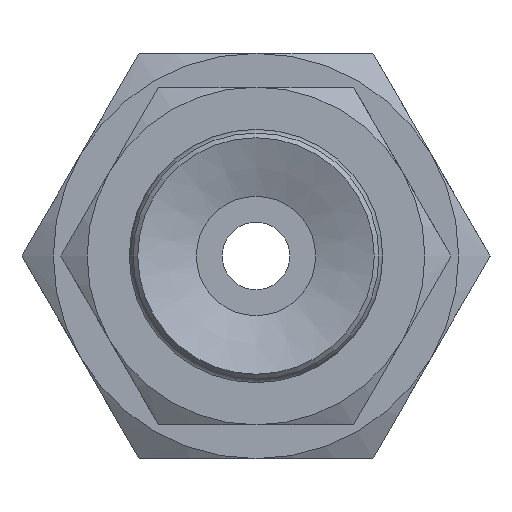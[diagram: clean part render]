
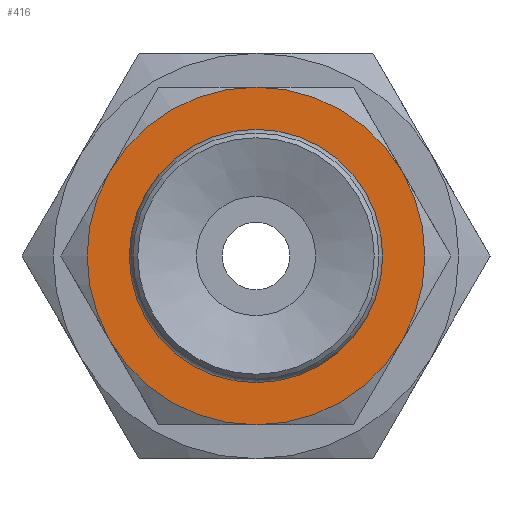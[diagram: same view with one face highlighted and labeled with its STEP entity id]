
A CAD part, front view. The second image highlights one B-rep face of the part: STEP entity #416.
In plain terms, the highlighted planar face has unit normal (0, -1, 0).
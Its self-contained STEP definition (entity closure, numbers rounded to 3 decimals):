
#416=ADVANCED_FACE('',(#551,#552),#553,.T.);
#551=FACE_BOUND('',#821,.T.);
#552=FACE_OUTER_BOUND('',#822,.T.);
#553=PLANE('',#823);
#821=EDGE_LOOP('',(#1175));
#822=EDGE_LOOP('',(#1176,#1177,#1178,#1179,#1180,#1181));
#823=AXIS2_PLACEMENT_3D('',#1182,#1183,#1184);
#1175=ORIENTED_EDGE('',*,*,#1774,.F.);
#1176=ORIENTED_EDGE('',*,*,#1748,.T.);
#1177=ORIENTED_EDGE('',*,*,#1782,.T.);
#1178=ORIENTED_EDGE('',*,*,#1762,.T.);
#1179=ORIENTED_EDGE('',*,*,#1764,.T.);
#1180=ORIENTED_EDGE('',*,*,#1783,.T.);
#1181=ORIENTED_EDGE('',*,*,#1784,.T.);
#1182=CARTESIAN_POINT('',(2.0,0.,0.0));
#1183=DIRECTION('',(0.0,-1.0,0.0));
#1184=DIRECTION('',(0.0,0.0,-1.0));
#1748=EDGE_CURVE('',#1936,#1942,#1944,.T.);
#1762=EDGE_CURVE('',#1967,#1960,#1969,.T.);
#1764=EDGE_CURVE('',#1960,#1970,#1972,.T.);
#1774=EDGE_CURVE('',#1986,#1986,#1987,.T.);
#1782=EDGE_CURVE('',#1942,#1967,#2001,.T.);
#1783=EDGE_CURVE('',#1970,#1919,#2002,.T.);
#1784=EDGE_CURVE('',#1919,#1936,#2003,.T.);
#1919=VERTEX_POINT('',#2235);
#1936=VERTEX_POINT('',#2265);
#1942=VERTEX_POINT('',#2278);
#1944=CIRCLE('',#2282,5.0);
#1960=VERTEX_POINT('',#2310);
#1967=VERTEX_POINT('',#2324);
#1969=CIRCLE('',#2328,5.0);
#1970=VERTEX_POINT('',#2329);
#1972=CIRCLE('',#2333,5.0);
#1986=VERTEX_POINT('',#2352);
#1987=CIRCLE('',#2353,2.0);
#2001=CIRCLE('',#2369,5.0);
#2002=CIRCLE('',#2370,5.0);
#2003=CIRCLE('',#2371,5.0);
#2235=CARTESIAN_POINT('',(-4.33,0.0,-2.5));
#2265=CARTESIAN_POINT('',(0.0,0.0,-5.0));
#2278=CARTESIAN_POINT('',(4.33,0.0,-2.5));
#2282=AXIS2_PLACEMENT_3D('',#2903,#2904,#2905);
#2310=CARTESIAN_POINT('',(0.0,0.0,5.0));
#2324=CARTESIAN_POINT('',(4.33,0.0,2.5));
#2328=AXIS2_PLACEMENT_3D('',#2912,#2913,#2914);
#2329=CARTESIAN_POINT('',(-4.33,0.,2.5));
#2333=AXIS2_PLACEMENT_3D('',#2915,#2916,#2917);
#2352=CARTESIAN_POINT('',(0.0,0.,-2.0));
#2353=AXIS2_PLACEMENT_3D('',#2937,#2938,#2939);
#2369=AXIS2_PLACEMENT_3D('',#2958,#2959,#2960);
#2370=AXIS2_PLACEMENT_3D('',#2961,#2962,#2963);
#2371=AXIS2_PLACEMENT_3D('',#2964,#2965,#2966);
#2903=CARTESIAN_POINT('',(0.0,0.,0.0));
#2904=DIRECTION('',(0.0,-1.0,0.0));
#2905=DIRECTION('',(0.0,0.0,-1.0));
#2912=CARTESIAN_POINT('',(0.0,0.,0.0));
#2913=DIRECTION('',(0.0,-1.0,0.0));
#2914=DIRECTION('',(0.0,0.0,-1.0));
#2915=CARTESIAN_POINT('',(0.0,0.,0.0));
#2916=DIRECTION('',(0.0,-1.0,0.0));
#2917=DIRECTION('',(0.0,0.0,-1.0));
#2937=CARTESIAN_POINT('',(0.0,0.,0.0));
#2938=DIRECTION('',(0.0,-1.0,0.0));
#2939=DIRECTION('',(0.0,0.0,-1.0));
#2958=CARTESIAN_POINT('',(0.0,0.,0.0));
#2959=DIRECTION('',(0.0,-1.0,0.0));
#2960=DIRECTION('',(0.0,0.0,-1.0));
#2961=CARTESIAN_POINT('',(0.0,0.,0.0));
#2962=DIRECTION('',(0.0,-1.0,0.0));
#2963=DIRECTION('',(0.0,0.0,-1.0));
#2964=CARTESIAN_POINT('',(0.0,0.,0.0));
#2965=DIRECTION('',(0.0,-1.0,0.0));
#2966=DIRECTION('',(0.0,0.0,-1.0));
